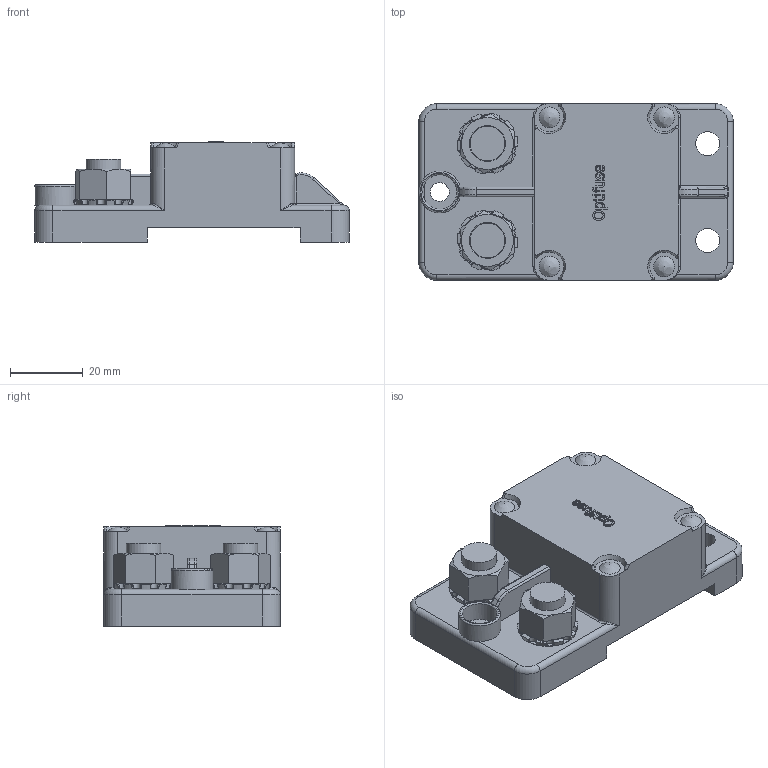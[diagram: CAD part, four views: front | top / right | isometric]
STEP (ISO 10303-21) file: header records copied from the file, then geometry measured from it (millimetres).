
FILE_DESCRIPTION(/* description */ (''),/* implementation_level */ '2;1');
FILE_NAME(/* name */ 'C:\Users\Hani\Desktop\work\551\551 Circuit Breaker.stp',/* time_stamp */ '2022-02-06T12:25:22-08:00',/* author */ ('Hani'),/* organization */ (''),/* preprocessor_version */ 'ST-DEVELOPER v17',/* originating_system */ 'Autodesk Inventor 2019',/* authorisation */ '');
FILE_SCHEMA (('AUTOMOTIVE_DESIGN { 1 0 10303 214 3 1 1 }'));
Products named in the file (7): 253 Circuit Breaker; Circuit_Breaker series 153; washer; bolt; .375-16 HEX NUT WITH TOOTH WASHER; washer_MIR; .375-16 HEX NUT WITH TOOTH WASHER_MIR
Assembly tree (9 placements, depth 2):
  253 Circuit Breaker
    Circuit_Breaker series 153
    washer
    bolt  x4
    .375-16 HEX NUT WITH TOOTH WASHER
    washer_MIR
    .375-16 HEX NUT WITH TOOTH WASHER_MIR
Bounding box: 86.35 x 48.5 x 27.55 mm (x, y, z)
Volume: 68565.7 mm3; surface area: 21079.3 mm2
Topology: 11 solids, 11 shells, 594 faces, 1551 edges, 988 vertices
Faces by surface type: plane 216, cylinder 145, bspline 139, cone 78, torus 14, sphere 2
Full cylindrical faces by diameter (mm): 3.429 x4, 3.5 x4, 5.2 x1, 6.6 x2, 7.806 x8, 9.5 x1, 9.525 x16, 9.652 x2, 12.706 x2, 15.494 x2, 15.875 x2
Entity records: 23891 total; most frequent: CARTESIAN_POINT 10239, ORIENTED_EDGE 3046, DIRECTION 2459, EDGE_CURVE 1523, VERTEX_POINT 973, AXIS2_PLACEMENT_3D 921, EDGE_LOOP 626, LINE 617
